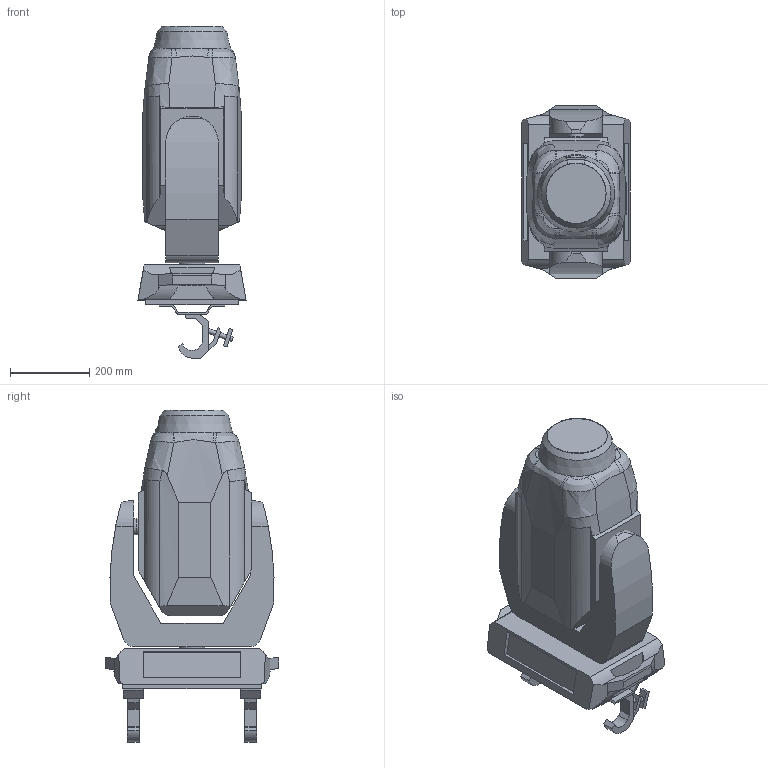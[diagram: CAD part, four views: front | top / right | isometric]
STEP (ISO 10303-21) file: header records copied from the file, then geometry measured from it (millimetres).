
FILE_DESCRIPTION( ( 'Unknown' ), '1' );
FILE_NAME( 'K:/Robin MMX/01 Robin MMX Spot/08 2D_3D_Symbols/RobinMMXSpot_00.stp', 'Unknown', ( '*' ), ( '*' ), 'PSStep 15.0.49', 'SolidEdge', ' ' );
FILE_SCHEMA( ( 'AUTOMOTIVE_DESIGN { 1 0 10303 214 1 1 1 1 }' ) );
Length unit declared in the file: millimetre
Products named in the file (7): Omega_SlimClamp_00; Omega+SlimClamp; Clamp Doughty Slimline QT; Assem1; Robin300Spot_Základna; MMX_Rameno; MMX_Hlava
Assembly tree (7 placements, depth 3):
  Assem1
    Robin300Spot_Základna
    MMX_Rameno
    MMX_Hlava
    Omega_SlimClamp_00  x2
      Omega+SlimClamp
      Clamp Doughty Slimline QT
Bounding box: 273.35 x 437.25 x 837.96 mm (x, y, z)
Volume: 45294134.9 mm3; surface area: 1339621.4 mm2
Topology: 7 solids, 7 shells, 281 faces, 741 edges, 493 vertices
Faces by surface type: plane 186, cylinder 65, bspline 24, cone 6
Full cylindrical faces by diameter (mm): 3.634 x1, 4 x3, 10 x4, 11 x4, 12 x8, 13 x2, 40 x3, 44.874 x1, 45.497 x1, 65.661 x1
Entity records: 12974 total; most frequent: CARTESIAN_POINT 5562, ORIENTED_EDGE 1146, DIRECTION 1059, EDGE_CURVE 573, VERTEX_POINT 390, AXIS2_PLACEMENT_3D 362, LINE 335, VECTOR 335
